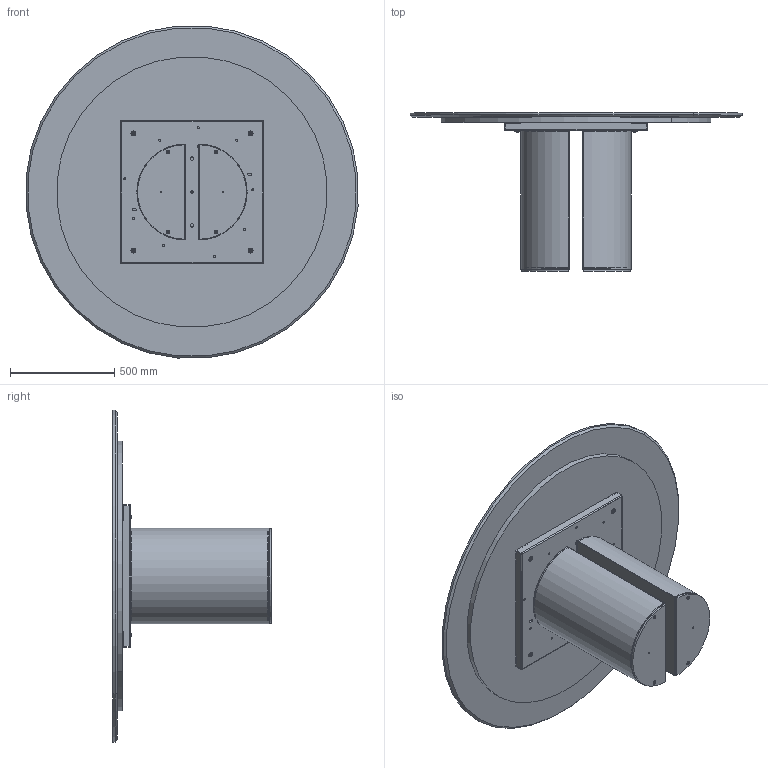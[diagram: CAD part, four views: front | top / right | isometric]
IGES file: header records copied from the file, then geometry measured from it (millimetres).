
Start section: SolidWorks IGES file using analytic representation for surfaces
Global section: file name: Y:\eforma\TECNICO\SOLIDWORKS\E-FORMA\1-TAVOLI\DORA\02 parts\DR08M.IGS; native system: SolidWorks 2022; preprocessor: SolidWorks 2022; author: eforma.tech; date: 240806.150138; units: millimetre
Bounding box: 1593.91 x 759 x 1593.91 mm (x, y, z)
Volume: 80990224.3 mm3; surface area: 11902861 mm2
Topology: 29 solids, 29 shells, 876 faces, 2168 edges, 1337 vertices
Faces by surface type: revolution 468, plane 408
